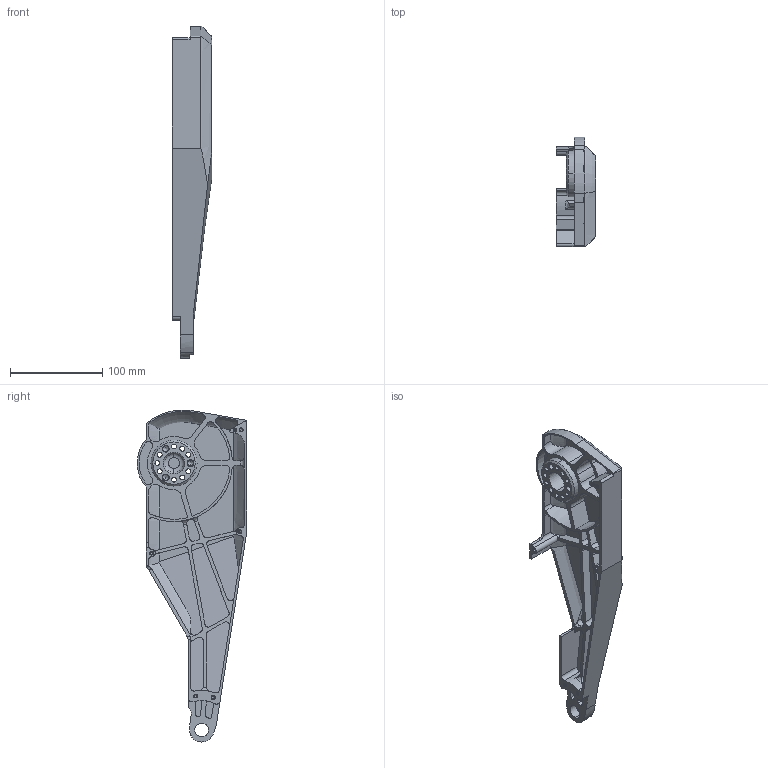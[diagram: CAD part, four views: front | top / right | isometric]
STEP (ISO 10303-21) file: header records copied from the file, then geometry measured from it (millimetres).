
FILE_DESCRIPTION((''),'2;1');
FILE_NAME('KD-D-401R_1','2025-07-12T17:47:25',('Administrator'),(''),'CREO PARAMETRIC BY PTC INC, 2022073','CREO PARAMETRIC BY PTC INC, 2022073','');
FILE_SCHEMA(('CONFIG_CONTROL_DESIGN'));
Length unit declared in the file: millimetre
Products named in the file (1): KD-D-401R_1
Bounding box: 42.75 x 118.88 x 360.74 mm (x, y, z)
Volume: 200935.1 mm3; surface area: 126025.8 mm2
Topology: 1 solids, 1 shells, 369 faces, 1117 edges, 751 vertices
Faces by surface type: cylinder 173, plane 91, cone 79, extrusion 16, bspline 4, torus 4, revolution 2
Entity records: 14231 total; most frequent: CARTESIAN_POINT 4080, ORIENTED_EDGE 2198, DIRECTION 2098, EDGE_CURVE 1099, AXIS2_PLACEMENT_3D 806, VERTEX_POINT 751, VECTOR 484, LINE 468
